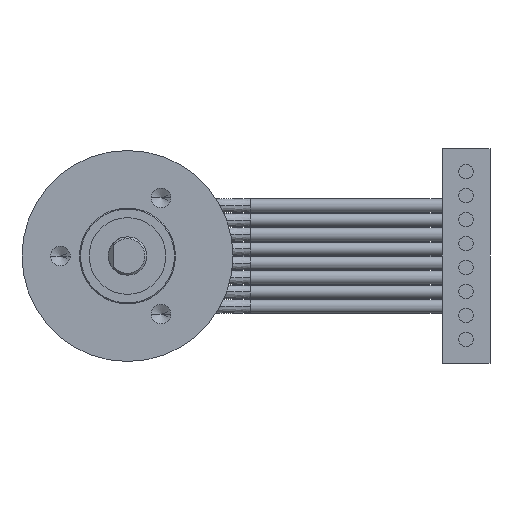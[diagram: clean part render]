
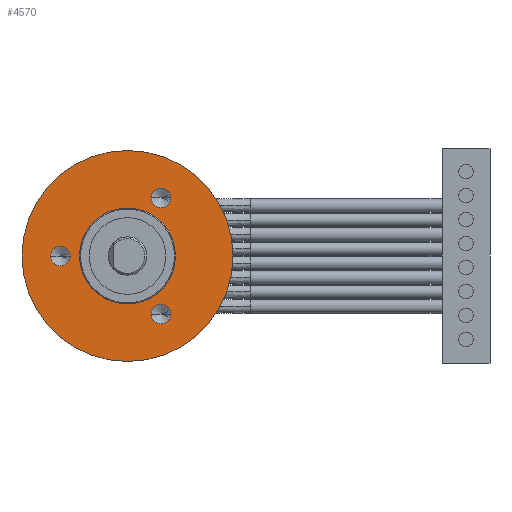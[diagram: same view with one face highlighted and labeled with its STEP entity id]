
A CAD part, left-side view. The second image highlights one B-rep face of the part: STEP entity #4570.
In plain terms, the highlighted planar face has unit normal (-1, 0, 0).
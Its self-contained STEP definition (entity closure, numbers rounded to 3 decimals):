
#58 = ORIENTED_EDGE ( 'NONE', *, *, #2930, .T. ) ;
#270 = VERTEX_POINT ( 'NONE', #6336 ) ;
#329 = EDGE_CURVE ( 'NONE', #2676, #6771, #3282, .T. ) ;
#354 = CIRCLE ( 'NONE', #2424, 11. ) ;
#422 = CARTESIAN_POINT ( 'NONE',  ( 14.85, -2.475, -6.062 ) ) ;
#613 = CARTESIAN_POINT ( 'NONE',  ( 14.85, 0., 5. ) ) ;
#866 = EDGE_CURVE ( 'NONE', #270, #1497, #7545, .T. ) ;
#1077 = AXIS2_PLACEMENT_3D ( 'NONE', #2581, #2529, #2504 ) ;
#1165 = EDGE_LOOP ( 'NONE', ( #6665, #3338 ) ) ;
#1380 = DIRECTION ( 'NONE',  ( 1., 0., 0. ) ) ;
#1455 = DIRECTION ( 'NONE',  ( 0., -1., 0. ) ) ;
#1477 = DIRECTION ( 'NONE',  ( -1., 0., 0. ) ) ;
#1482 = CARTESIAN_POINT ( 'NONE',  ( 14.85, 7., 0. ) ) ;
#1497 = VERTEX_POINT ( 'NONE', #6719 ) ;
#1578 = DIRECTION ( 'NONE',  ( 0., 0., 1. ) ) ;
#1656 = CARTESIAN_POINT ( 'NONE',  ( 14.85, 0., 0. ) ) ;
#1737 = EDGE_LOOP ( 'NONE', ( #3984, #4871 ) ) ;
#1841 = EDGE_CURVE ( 'NONE', #5963, #2421, #4330, .T. ) ;
#1963 = CARTESIAN_POINT ( 'NONE',  ( 14.85, -2.475, 6.062 ) ) ;
#1980 = EDGE_CURVE ( 'NONE', #1497, #270, #6333, .T. ) ;
#2094 = CARTESIAN_POINT ( 'NONE',  ( 14.85, -4.525, 6.062 ) ) ;
#2110 = VERTEX_POINT ( 'NONE', #613 ) ;
#2135 = ORIENTED_EDGE ( 'NONE', *, *, #5110, .F. ) ;
#2166 = AXIS2_PLACEMENT_3D ( 'NONE', #5851, #5842, #5834 ) ;
#2308 = DIRECTION ( 'NONE',  ( 0., -1., 0. ) ) ;
#2323 = CARTESIAN_POINT ( 'NONE',  ( 14.85, -3.5, 6.062 ) ) ;
#2421 = VERTEX_POINT ( 'NONE', #6328 ) ;
#2424 = AXIS2_PLACEMENT_3D ( 'NONE', #6899, #6872, #6693 ) ;
#2504 = DIRECTION ( 'NONE',  ( 0., -1., 0. ) ) ;
#2529 = DIRECTION ( 'NONE',  ( -1., 0., 0. ) ) ;
#2581 = CARTESIAN_POINT ( 'NONE',  ( 14.85, 7., 0. ) ) ;
#2676 = VERTEX_POINT ( 'NONE', #2094 ) ;
#2757 = CARTESIAN_POINT ( 'NONE',  ( 14.85, 0., -5. ) ) ;
#2778 = FACE_OUTER_BOUND ( 'NONE', #1737, .T. ) ;
#2930 = EDGE_CURVE ( 'NONE', #2110, #7522, #4008, .T. ) ;
#3067 = AXIS2_PLACEMENT_3D ( 'NONE', #1482, #1477, #1455 ) ;
#3248 = CIRCLE ( 'NONE', #6630, 5. ) ;
#3282 = CIRCLE ( 'NONE', #2166, 1.025 ) ;
#3338 = ORIENTED_EDGE ( 'NONE', *, *, #6028, .F. ) ;
#3490 = CARTESIAN_POINT ( 'NONE',  ( 14.85, 0., -11. ) ) ;
#3565 = DIRECTION ( 'NONE',  ( 0., 0., 1. ) ) ;
#3573 = EDGE_CURVE ( 'NONE', #2421, #5963, #354, .T. ) ;
#3582 = DIRECTION ( 'NONE',  ( 1., 0., 0. ) ) ;
#3591 = CARTESIAN_POINT ( 'NONE',  ( 14.85, 0., 0. ) ) ;
#3678 = ORIENTED_EDGE ( 'NONE', *, *, #1980, .F. ) ;
#3984 = ORIENTED_EDGE ( 'NONE', *, *, #3573, .F. ) ;
#4008 = CIRCLE ( 'NONE', #4204, 5. ) ;
#4046 = AXIS2_PLACEMENT_3D ( 'NONE', #3591, #3582, #3565 ) ;
#4143 = CIRCLE ( 'NONE', #4995, 1.025 ) ;
#4204 = AXIS2_PLACEMENT_3D ( 'NONE', #1656, #1380, #1578 ) ;
#4274 = DIRECTION ( 'NONE',  ( 0., -1., 0. ) ) ;
#4297 = DIRECTION ( 'NONE',  ( -1., 0., 0. ) ) ;
#4304 = CARTESIAN_POINT ( 'NONE',  ( 14.85, -3.5, -6.062 ) ) ;
#4327 = FACE_BOUND ( 'NONE', #5052, .T. ) ;
#4330 = CIRCLE ( 'NONE', #4046, 11. ) ;
#4413 = EDGE_CURVE ( 'NONE', #7522, #2110, #3248, .T. ) ;
#4454 = CARTESIAN_POINT ( 'NONE',  ( 14.85, -4.525, -6.062 ) ) ;
#4570 = ADVANCED_FACE ( 'NONE', ( #7441, #5874, #4687, #4327, #2778 ), #6400, .F. ) ;
#4601 = EDGE_LOOP ( 'NONE', ( #58, #7309 ) ) ;
#4602 = VERTEX_POINT ( 'NONE', #4454 ) ;
#4678 = DIRECTION ( 'NONE',  ( 0., 0., 1. ) ) ;
#4687 = FACE_BOUND ( 'NONE', #1165, .T. ) ;
#4706 = DIRECTION ( 'NONE',  ( 1., 0., 0. ) ) ;
#4871 = ORIENTED_EDGE ( 'NONE', *, *, #1841, .F. ) ;
#4875 = CARTESIAN_POINT ( 'NONE',  ( 14.85, 0., 0. ) ) ;
#4995 = AXIS2_PLACEMENT_3D ( 'NONE', #4304, #4297, #4274 ) ;
#5052 = EDGE_LOOP ( 'NONE', ( #3678, #6769 ) ) ;
#5110 = EDGE_CURVE ( 'NONE', #6299, #4602, #4143, .T. ) ;
#5834 = DIRECTION ( 'NONE',  ( 0., -1., 0. ) ) ;
#5842 = DIRECTION ( 'NONE',  ( -1., 0., 0. ) ) ;
#5851 = CARTESIAN_POINT ( 'NONE',  ( 14.85, -3.5, 6.062 ) ) ;
#5874 = FACE_BOUND ( 'NONE', #6397, .T. ) ;
#5963 = VERTEX_POINT ( 'NONE', #3490 ) ;
#6028 = EDGE_CURVE ( 'NONE', #6771, #2676, #7548, .T. ) ;
#6031 = DIRECTION ( 'NONE',  ( 0., 0., -1. ) ) ;
#6148 = DIRECTION ( 'NONE',  ( 1., 0., 0. ) ) ;
#6299 = VERTEX_POINT ( 'NONE', #422 ) ;
#6306 = CARTESIAN_POINT ( 'NONE',  ( 14.85, -11.132, 11.132 ) ) ;
#6328 = CARTESIAN_POINT ( 'NONE',  ( 14.85, 0., 11. ) ) ;
#6333 = CIRCLE ( 'NONE', #1077, 1.025 ) ;
#6336 = CARTESIAN_POINT ( 'NONE',  ( 14.85, 8.025, 0. ) ) ;
#6381 = CIRCLE ( 'NONE', #6735, 1.025 ) ;
#6397 = EDGE_LOOP ( 'NONE', ( #7086, #2135 ) ) ;
#6400 = PLANE ( 'NONE',  #6484 ) ;
#6484 = AXIS2_PLACEMENT_3D ( 'NONE', #6306, #6148, #6031 ) ;
#6630 = AXIS2_PLACEMENT_3D ( 'NONE', #4875, #4706, #4678 ) ;
#6665 = ORIENTED_EDGE ( 'NONE', *, *, #329, .F. ) ;
#6693 = DIRECTION ( 'NONE',  ( 0., 0., 1. ) ) ;
#6719 = CARTESIAN_POINT ( 'NONE',  ( 14.85, 5.975, 0. ) ) ;
#6735 = AXIS2_PLACEMENT_3D ( 'NONE', #6827, #6802, #6782 ) ;
#6769 = ORIENTED_EDGE ( 'NONE', *, *, #866, .F. ) ;
#6771 = VERTEX_POINT ( 'NONE', #1963 ) ;
#6782 = DIRECTION ( 'NONE',  ( 0., -1., 0. ) ) ;
#6802 = DIRECTION ( 'NONE',  ( -1., 0., 0. ) ) ;
#6827 = CARTESIAN_POINT ( 'NONE',  ( 14.85, -3.5, -6.062 ) ) ;
#6835 = EDGE_CURVE ( 'NONE', #4602, #6299, #6381, .T. ) ;
#6868 = DIRECTION ( 'NONE',  ( -1., 0., 0. ) ) ;
#6872 = DIRECTION ( 'NONE',  ( 1., 0., 0. ) ) ;
#6899 = CARTESIAN_POINT ( 'NONE',  ( 14.85, 0., 0. ) ) ;
#7086 = ORIENTED_EDGE ( 'NONE', *, *, #6835, .F. ) ;
#7230 = AXIS2_PLACEMENT_3D ( 'NONE', #2323, #6868, #2308 ) ;
#7309 = ORIENTED_EDGE ( 'NONE', *, *, #4413, .T. ) ;
#7441 = FACE_BOUND ( 'NONE', #4601, .T. ) ;
#7522 = VERTEX_POINT ( 'NONE', #2757 ) ;
#7545 = CIRCLE ( 'NONE', #3067, 1.025 ) ;
#7548 = CIRCLE ( 'NONE', #7230, 1.025 ) ;
